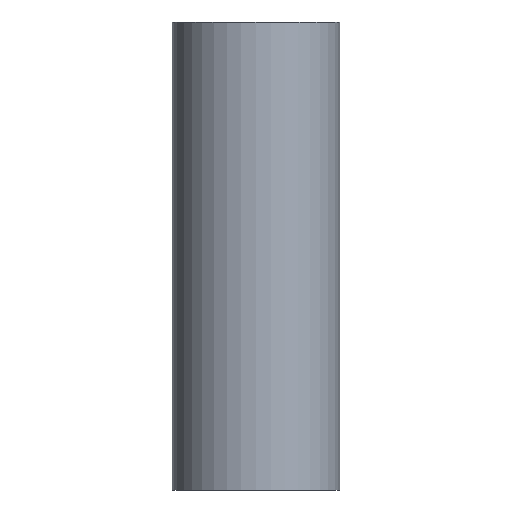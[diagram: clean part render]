
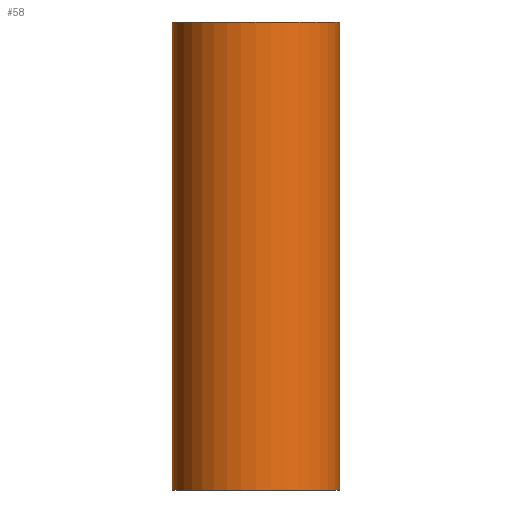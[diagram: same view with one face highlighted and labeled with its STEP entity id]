
A CAD part, front view. The second image highlights one B-rep face of the part: STEP entity #58.
In plain terms, the highlighted cylindrical face has radius 2.363 mm (diameter 4.726 mm), a full revolution.
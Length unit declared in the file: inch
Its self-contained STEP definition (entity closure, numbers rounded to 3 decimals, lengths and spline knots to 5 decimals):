
#13=FACE_OUTER_BOUND($,#30,.T.);
#15=CYLINDRICAL_SURFACE($,#68,0.09303);
#23=FACE_BOUND($,#31,.T.);
#30=EDGE_LOOP($,(#50));
#31=EDGE_LOOP($,(#51));
#35=CIRCLE($,#65,0.09303);
#37=CIRCLE($,#69,0.09303);
#39=VERTEX_POINT($,#93);
#41=VERTEX_POINT($,#99);
#43=EDGE_CURVE($,#39,#39,#35,.T.);
#45=EDGE_CURVE($,#41,#41,#37,.T.);
#50=ORIENTED_EDGE($,*,*,#43,.T.);
#51=ORIENTED_EDGE($,*,*,#45,.F.);
#58=ADVANCED_FACE($,(#13,#23),#15,.T.);
#65=AXIS2_PLACEMENT_3D($,#94,#77,#78);
#68=AXIS2_PLACEMENT_3D($,#98,#83,#84);
#69=AXIS2_PLACEMENT_3D($,#100,#85,#86);
#77=DIRECTION('center_axis',(0.,0.,-1.));
#78=DIRECTION('ref_axis',(-1.,0.,0.));
#83=DIRECTION('center_axis',(0.,0.,1.));
#84=DIRECTION('ref_axis',(-1.,0.,0.));
#85=DIRECTION('center_axis',(0.,0.,-1.));
#86=DIRECTION('ref_axis',(-1.,0.,0.));
#93=CARTESIAN_POINT('',(0.12993,0.,0.52025));
#94=CARTESIAN_POINT('Origin',(0.0369,0.,
0.52025));
#98=CARTESIAN_POINT('Origin',(0.0369,0.,
0.));
#99=CARTESIAN_POINT('',(0.12993,0.,0.));
#100=CARTESIAN_POINT('Origin',(0.0369,0.,
0.));
